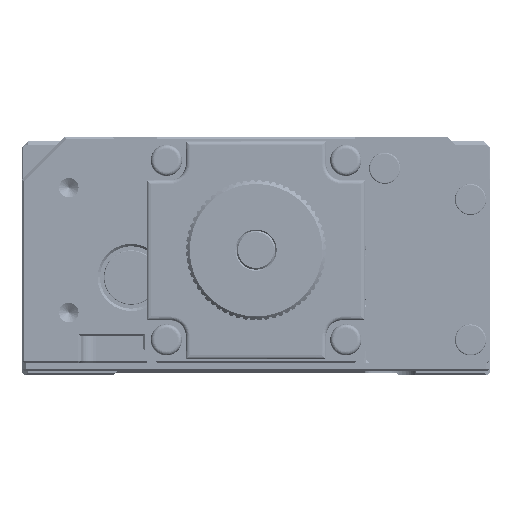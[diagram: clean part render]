
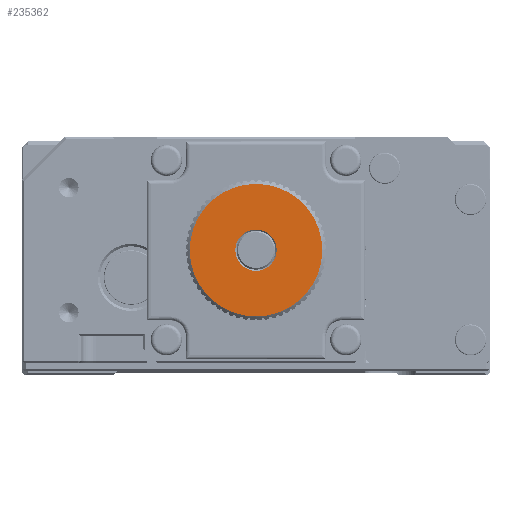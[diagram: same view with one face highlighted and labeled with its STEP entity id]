
A CAD part, front view. The second image highlights one B-rep face of the part: STEP entity #235362.
In plain terms, the highlighted planar face has unit normal (0, -1, 0).
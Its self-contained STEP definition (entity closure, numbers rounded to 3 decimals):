
#239 = CIRCLE ( 'NONE', #87754, 8.5 ) ;
#7519 = EDGE_CURVE ( 'NONE', #112875, #169400, #239, .T. ) ;
#16206 = DIRECTION ( 'NONE',  ( 1., 0., 0. ) ) ;
#27403 = CARTESIAN_POINT ( 'NONE',  ( 0., -264.12, -4.027 ) ) ;
#32341 = EDGE_CURVE ( 'NONE', #186722, #140432, #231381, .T. ) ;
#45857 = DIRECTION ( 'NONE',  ( 1., 0., 0. ) ) ;
#67168 = ORIENTED_EDGE ( 'NONE', *, *, #7519, .T. ) ;
#67940 = CARTESIAN_POINT ( 'NONE',  ( -8.5, -264.12, -4.027 ) ) ;
#70652 = CARTESIAN_POINT ( 'NONE',  ( 2.65, -264.12, -4.027 ) ) ;
#71588 = EDGE_CURVE ( 'NONE', #169400, #112875, #117518, .T. ) ;
#81966 = PLANE ( 'NONE',  #86624 ) ;
#84774 = DIRECTION ( 'NONE',  ( 0., -1., 0. ) ) ;
#86624 = AXIS2_PLACEMENT_3D ( 'NONE', #176189, #173856, #139195 ) ;
#87754 = AXIS2_PLACEMENT_3D ( 'NONE', #87915, #160721, #16206 ) ;
#87915 = CARTESIAN_POINT ( 'NONE',  ( 0., -264.12, -4.027 ) ) ;
#90392 = EDGE_CURVE ( 'NONE', #140432, #186722, #138176, .T. ) ;
#95083 = EDGE_LOOP ( 'NONE', ( #177319, #132508 ) ) ;
#98718 = FACE_OUTER_BOUND ( 'NONE', #158753, .T. ) ;
#112195 = CARTESIAN_POINT ( 'NONE',  ( 0., -264.12, -4.027 ) ) ;
#112875 = VERTEX_POINT ( 'NONE', #67940 ) ;
#115727 = DIRECTION ( 'NONE',  ( 0., 1., 0. ) ) ;
#117518 = CIRCLE ( 'NONE', #163197, 8.5 ) ;
#120067 = CARTESIAN_POINT ( 'NONE',  ( -2.65, -264.12, -4.027 ) ) ;
#132508 = ORIENTED_EDGE ( 'NONE', *, *, #90392, .T. ) ;
#138176 = CIRCLE ( 'NONE', #141921, 2.65 ) ;
#139195 = DIRECTION ( 'NONE',  ( 1., 0., 0. ) ) ;
#140432 = VERTEX_POINT ( 'NONE', #120067 ) ;
#141921 = AXIS2_PLACEMENT_3D ( 'NONE', #112195, #115727, #188416 ) ;
#151729 = CARTESIAN_POINT ( 'NONE',  ( 8.5, -264.12, -4.027 ) ) ;
#152218 = CARTESIAN_POINT ( 'NONE',  ( 0., -264.12, -4.027 ) ) ;
#158753 = EDGE_LOOP ( 'NONE', ( #67168, #172762 ) ) ;
#160721 = DIRECTION ( 'NONE',  ( 0., -1., 0. ) ) ;
#163197 = AXIS2_PLACEMENT_3D ( 'NONE', #27403, #84774, #227915 ) ;
#169400 = VERTEX_POINT ( 'NONE', #151729 ) ;
#172762 = ORIENTED_EDGE ( 'NONE', *, *, #71588, .T. ) ;
#173856 = DIRECTION ( 'NONE',  ( 0., -1., 0. ) ) ;
#176189 = CARTESIAN_POINT ( 'NONE',  ( 0., -264.12, -4.027 ) ) ;
#177319 = ORIENTED_EDGE ( 'NONE', *, *, #32341, .T. ) ;
#186722 = VERTEX_POINT ( 'NONE', #70652 ) ;
#188416 = DIRECTION ( 'NONE',  ( 1., 0., 0. ) ) ;
#208081 = DIRECTION ( 'NONE',  ( 0., 1., 0. ) ) ;
#222774 = FACE_BOUND ( 'NONE', #95083, .T. ) ;
#227613 = AXIS2_PLACEMENT_3D ( 'NONE', #152218, #208081, #45857 ) ;
#227915 = DIRECTION ( 'NONE',  ( 1., 0., 0. ) ) ;
#231381 = CIRCLE ( 'NONE', #227613, 2.65 ) ;
#235362 = ADVANCED_FACE ( 'NONE', ( #222774, #98718 ), #81966, .T. ) ;
